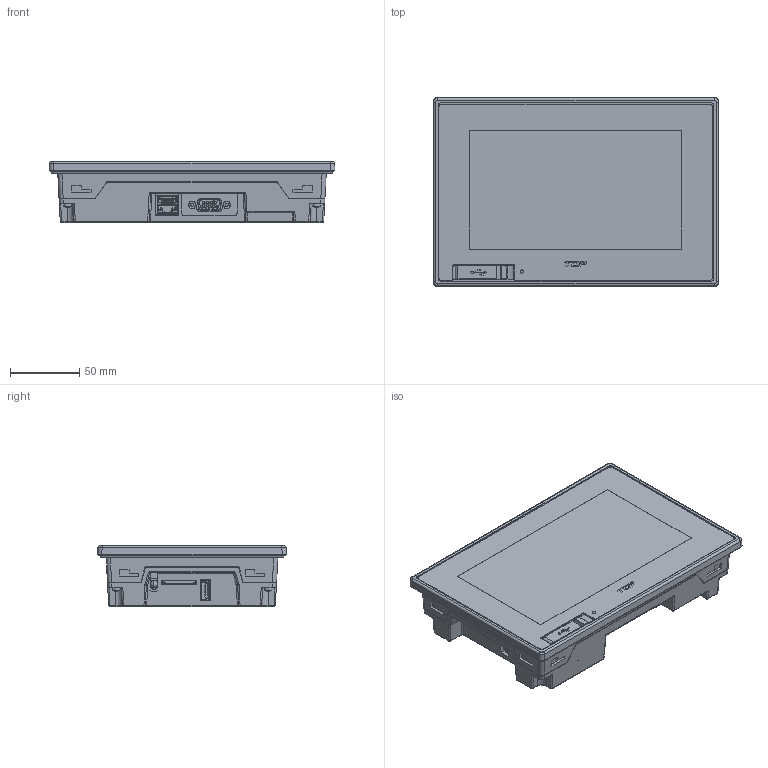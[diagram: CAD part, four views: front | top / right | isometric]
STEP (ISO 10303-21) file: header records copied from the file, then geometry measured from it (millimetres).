
FILE_DESCRIPTION((''),'2;1');
FILE_NAME('3D-TOPRE0700','2018-06-27T',('bckim'),(''),'CREO PARAMETRIC BY PTC INC, 2016260','CREO PARAMETRIC BY PTC INC, 2016260','');
FILE_SCHEMA(('CONFIG_CONTROL_DESIGN'));
Products named in the file (1): 3D-TOPRE0700
Bounding box: 206.45 x 136.45 x 44.1 mm (x, y, z)
Volume: 985710 mm3; surface area: 109276.4 mm2
Topology: 1 solids, 12 shells, 3693 faces, 10555 edges, 6917 vertices
Faces by surface type: plane 2998, cylinder 545, bspline 45, cone 42, sphere 32, torus 31
Entity records: 121596 total; most frequent: CARTESIAN_POINT 24704, ORIENTED_EDGE 21106, DIRECTION 18674, EDGE_CURVE 10553, VECTOR 9142, LINE 9142, VERTEX_POINT 6917, AXIS2_PLACEMENT_3D 4766
